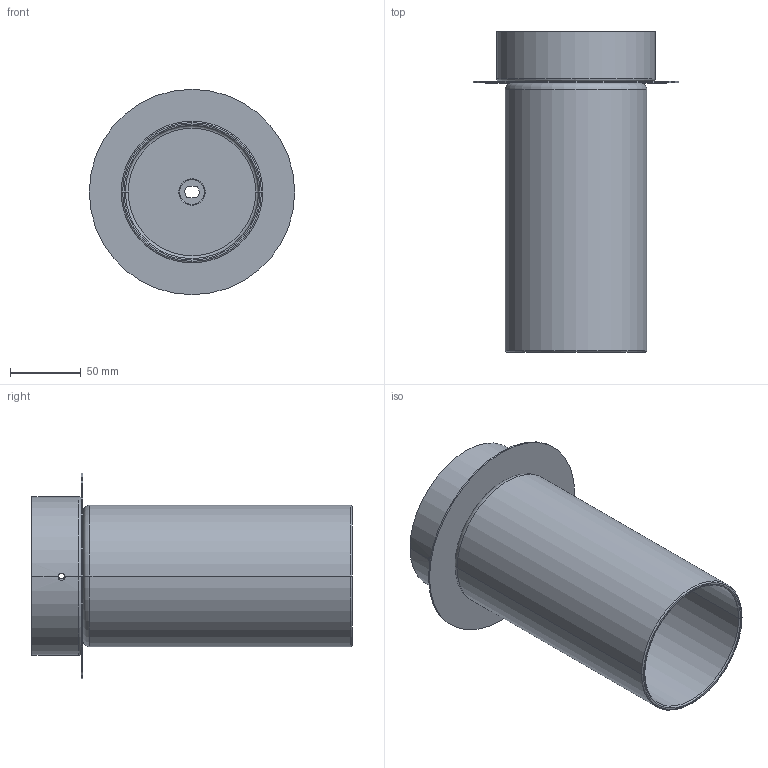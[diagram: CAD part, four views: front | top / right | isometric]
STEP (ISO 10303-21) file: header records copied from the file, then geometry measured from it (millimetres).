
FILE_DESCRIPTION (( 'STEP AP203' ), '1' );
FILE_NAME ('PLSPIX01XXXXXXX-PER 3D.STEP', '2025-06-25T14:05:30', ( '' ), ( '' ), 'SwSTEP 2.0', 'SolidWorks 2024', '' );
FILE_SCHEMA (( 'CONFIG_CONTROL_DESIGN' ));
Length unit declared in the file: millimetre
Products named in the file (5): VSPILLRAYM190CS; WSCM2F0036-0100-00; MPLSPIX01XXXXXXX; WSCM2C0178-0100-00; PLSPIX01XXXXXXX-PER 3D
Assembly tree (4 placements, depth 3):
  PLSPIX01XXXXXXX-PER 3D
    MPLSPIX01XXXXXXX
      WSCM2C0178-0100-00
      WSCM2F0036-0100-00
    VSPILLRAYM190CS
Bounding box: 144.99 x 226 x 144.99 mm (x, y, z)
Volume: 230072.4 mm3; surface area: 205598.5 mm2
Topology: 3 solids, 3 shells, 49 faces, 119 edges, 74 vertices
Faces by surface type: cylinder 21, torus 16, plane 12
Entity records: 2222 total; most frequent: CARTESIAN_POINT 506, DIRECTION 283, ORIENTED_EDGE 238, AXIS2_PLACEMENT_3D 123, EDGE_CURVE 119, VERTEX_POINT 74, CIRCLE 66, EDGE_LOOP 57
